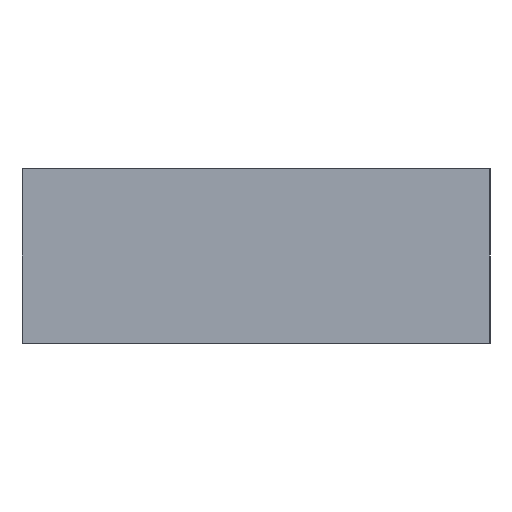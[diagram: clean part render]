
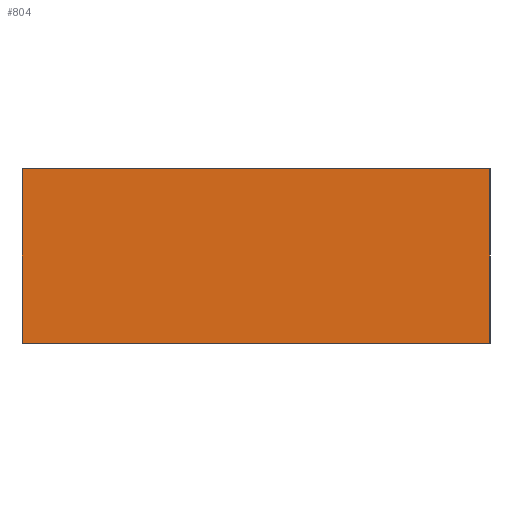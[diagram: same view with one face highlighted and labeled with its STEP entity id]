
A CAD part, left-side view. The second image highlights one B-rep face of the part: STEP entity #804.
In plain terms, the highlighted planar face has unit normal (-1, 0, 0).
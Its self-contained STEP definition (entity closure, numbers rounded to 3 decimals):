
#670=CARTESIAN_POINT('',(-2.4,-1.702,0.0));
#669=VERTEX_POINT('',#670);
#688=CARTESIAN_POINT('',(-2.4,-1.702,1.27));
#687=VERTEX_POINT('',#688);
#696=EDGE_CURVE('',#669,#687,#701,.T.);
#701=LINE('',#670,#703);
#703=VECTOR('',#704,1.27);
#704=DIRECTION('',(0.0,0.0,1.0));
#766=CARTESIAN_POINT('',(-2.4,1.702,0.0));
#765=VERTEX_POINT('',#766);
#776=CARTESIAN_POINT('',(-2.4,1.702,1.27));
#775=VERTEX_POINT('',#776);
#774=EDGE_CURVE('',#775,#765,#779,.T.);
#779=LINE('',#776,#781);
#781=VECTOR('',#782,1.27);
#782=DIRECTION('',(0.0,0.0,-1.0));
#804=ADVANCED_FACE('',(#810),#805,.T.);
#805=PLANE('',#806);
#806=AXIS2_PLACEMENT_3D('',#807,#808,#809);
#807=CARTESIAN_POINT('',(-2.4,1.702,0.0));
#808=DIRECTION('',(-1.0,0.0,0.0));
#809=DIRECTION('',(0.,0.,1.));
#810=FACE_OUTER_BOUND('',#811,.T.);
#811=EDGE_LOOP('',(#812,#822,#832,#842));
#813=EDGE_CURVE('',#669,#765,#818,.T.);
#818=LINE('',#670,#820);
#820=VECTOR('',#821,3.404);
#821=DIRECTION('',(0.0,1.0,0.0));
#812=ORIENTED_EDGE('',*,*,#813,.F.);
#822=ORIENTED_EDGE('',*,*,#696,.T.);
#833=EDGE_CURVE('',#775,#687,#838,.T.);
#838=LINE('',#776,#840);
#840=VECTOR('',#841,3.404);
#841=DIRECTION('',(0.0,-1.0,0.0));
#832=ORIENTED_EDGE('',*,*,#833,.F.);
#842=ORIENTED_EDGE('',*,*,#774,.T.);
